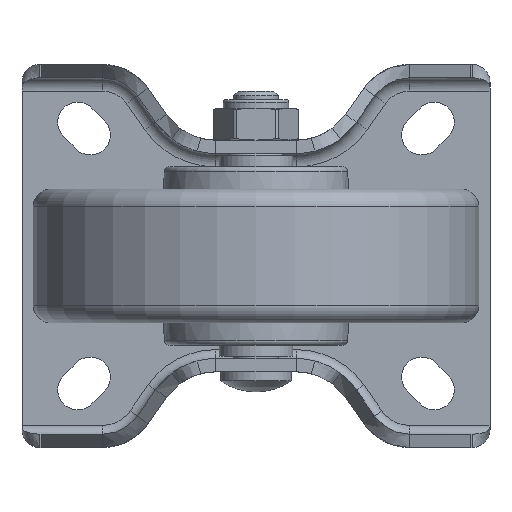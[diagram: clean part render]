
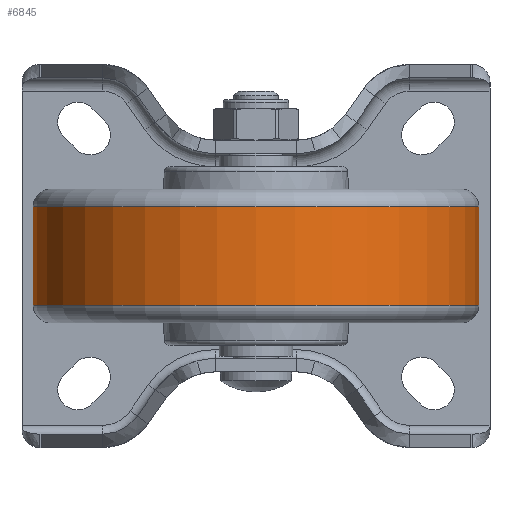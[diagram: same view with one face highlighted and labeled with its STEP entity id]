
A CAD part, front view. The second image highlights one B-rep face of the part: STEP entity #6845.
In plain terms, the highlighted cylindrical face has radius 50 mm (diameter 100 mm), a partial arc.
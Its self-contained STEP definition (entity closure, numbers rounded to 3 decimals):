
#6685=CARTESIAN_POINT('',(-11.,0.,0.));
#6686=DIRECTION('',(1.,0.,0.));
#6687=DIRECTION('',(0.,-1.,0.));
#6688=AXIS2_PLACEMENT_3D('',#6685,#6686,#6687);
#6690=DIRECTION('',(1.,0.,0.));
#6691=VECTOR('',#6690,22.);
#6692=CARTESIAN_POINT('',(-11.,-50.,0.));
#6693=LINE('',#6692,#6691);
#6699=DIRECTION('',(1.,0.,0.));
#6700=VECTOR('',#6699,22.);
#6701=CARTESIAN_POINT('',(-11.,50.,0.));
#6702=LINE('',#6701,#6700);
#6718=CARTESIAN_POINT('',(11.,0.,0.));
#6719=DIRECTION('',(1.,0.,0.));
#6720=DIRECTION('',(0.,-1.,0.));
#6721=AXIS2_PLACEMENT_3D('',#6718,#6719,#6720);
#6734=CARTESIAN_POINT('',(-11.,-50.,0.));
#6736=VERTEX_POINT('',#6734);
#6737=CARTESIAN_POINT('',(11.,-50.,0.));
#6738=VERTEX_POINT('',#6737);
#6746=CARTESIAN_POINT('',(-11.,50.,0.));
#6748=VERTEX_POINT('',#6746);
#6749=CARTESIAN_POINT('',(11.,50.,0.));
#6750=VERTEX_POINT('',#6749);
#6831=CARTESIAN_POINT('',(-16.5,0.,0.));
#6832=DIRECTION('',(1.,0.,0.));
#6833=DIRECTION('',(0.,-1.,0.));
#6834=AXIS2_PLACEMENT_3D('',#6831,#6832,#6833);
#6835=CYLINDRICAL_SURFACE('',#6834,50.);
#6837=ORIENTED_EDGE('',*,*,#6836,.T.);
#6839=ORIENTED_EDGE('',*,*,#6838,.T.);
#6841=ORIENTED_EDGE('',*,*,#6840,.F.);
#6842=ORIENTED_EDGE('',*,*,#6824,.F.);
#6843=EDGE_LOOP('',(#6837,#6839,#6841,#6842));
#6844=FACE_OUTER_BOUND('',#6843,.F.);
#6689=CIRCLE('',#6688,50.);
#6722=CIRCLE('',#6721,50.);
#6824=EDGE_CURVE('',#6736,#6748,#6689,.T.);
#6836=EDGE_CURVE('',#6736,#6738,#6693,.T.);
#6838=EDGE_CURVE('',#6738,#6750,#6722,.T.);
#6840=EDGE_CURVE('',#6748,#6750,#6702,.T.);
#6845=ADVANCED_FACE('',(#6844),#6835,.T.);
